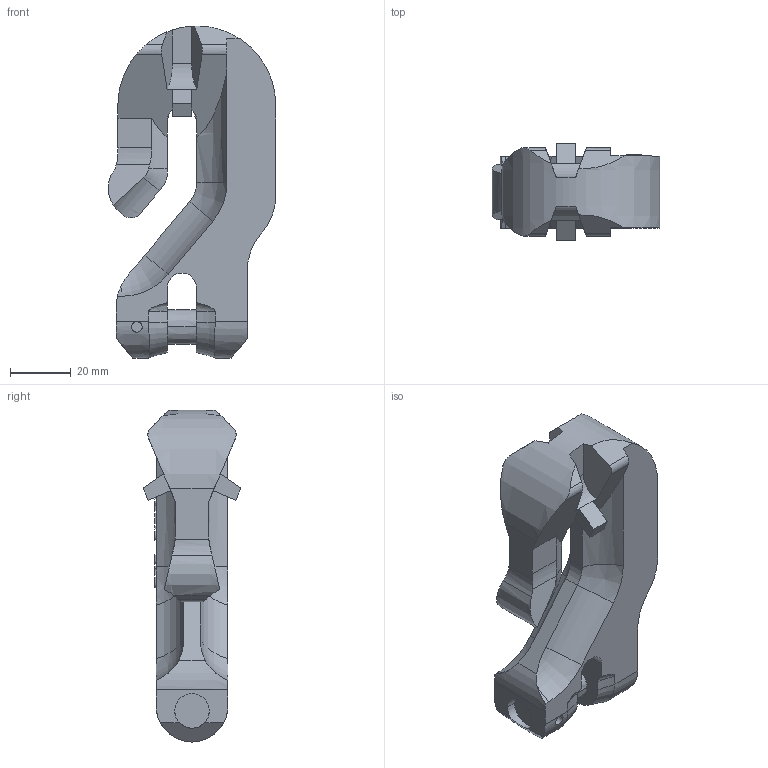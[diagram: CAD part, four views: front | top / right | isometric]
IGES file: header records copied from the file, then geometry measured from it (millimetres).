
Start section:  PTC IGES file: IVH-8_7900133_M33798-P-10.igs
Global section: file name: IVH-8_7900133_M33798-P-10.igs; native system: Pro/ENGINEER by Parametric Technology Corporation; preprocessor: 2010140; author: Andreas.Wendler; organization: Unknown; date: 20140812.095255; units: millimetre
Bounding box: 54.98 x 32.13 x 108.99 mm (x, y, z)
Volume: 77527.7 mm3; surface area: 17350.9 mm2
Topology: 1 solids, 1 shells, 293 faces, 821 edges, 544 vertices
Faces by surface type: bspline 235, revolution 58
